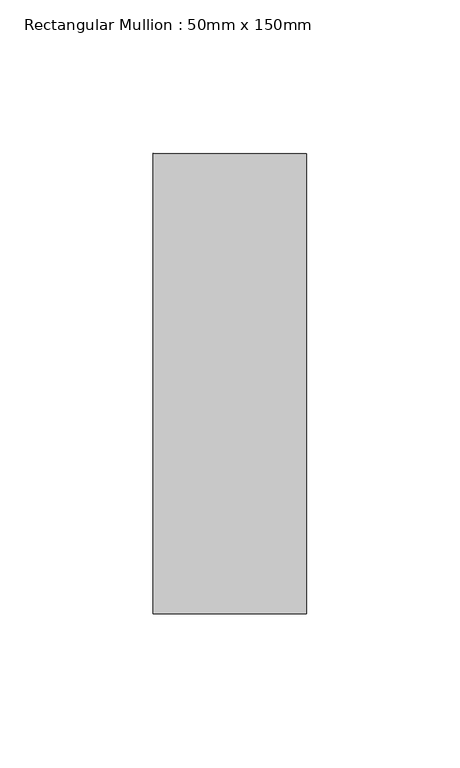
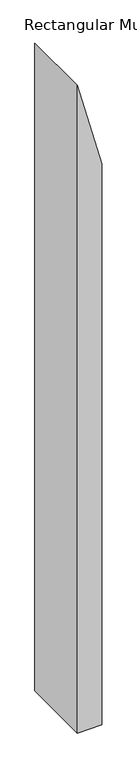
"""IFC4 building model written with IfcOpenShell, lengths in millimetres: member geometry, Rectangular Mullion : 50mm x 150mm."""

from ifc_helpers import new_model, si_unit, frame, origin, place, context, project, spatial, polyline, outline, extrude, source, transform, mapped, element, save


def rectangular_mullion_50mm_x_150mm_25900149(model_context):
    return source(origin(), model_context, "Body", "SweptSolid", [
        extrude(outline(polyline([(-143.3012702, 25.0), (43.3012702, -25.0), (-1353.1019852, -25.0), (-1353.1019852, 25.0), (-143.3012702, 25.0)])), frame((0.0, -75.0, 0.0), z_axis=(0.0, 1.0, 0.0), x_axis=(0.0, 0.0, 1.0)), (0.0, 0.0, 1.0), 150.0),
    ])


if __name__ == "__main__":
    model = new_model("IFC4")
    model_context = context("Model", 3, world=origin())
    ifc_project = project(units=[si_unit("LENGTHUNIT", "METRE", prefix="MILLI")], contexts=[model_context])
    site = spatial("IfcSite", under=ifc_project)
    building = spatial("IfcBuilding", under=site)
    placement = place(None, origin())
    rectangular_mullion_50mm_x_150mm_shape = rectangular_mullion_50mm_x_150mm_25900149(model_context)
    element("IfcMember", 1, ObjectType="Rectangular Mullion : 50mm x 150mm", at=placement, inside=building, context=model_context, shape_type="MappedRepresentation", body=[
        mapped(rectangular_mullion_50mm_x_150mm_shape, transform((0.0, 0.0, 0.0), x_axis=(1.0, 0.0, 0.0), y_axis=(0.0, 1.0, 0.0), z_axis=(0.0, 0.0, 1.0))),
    ])
    save(model, "model.ifc")
